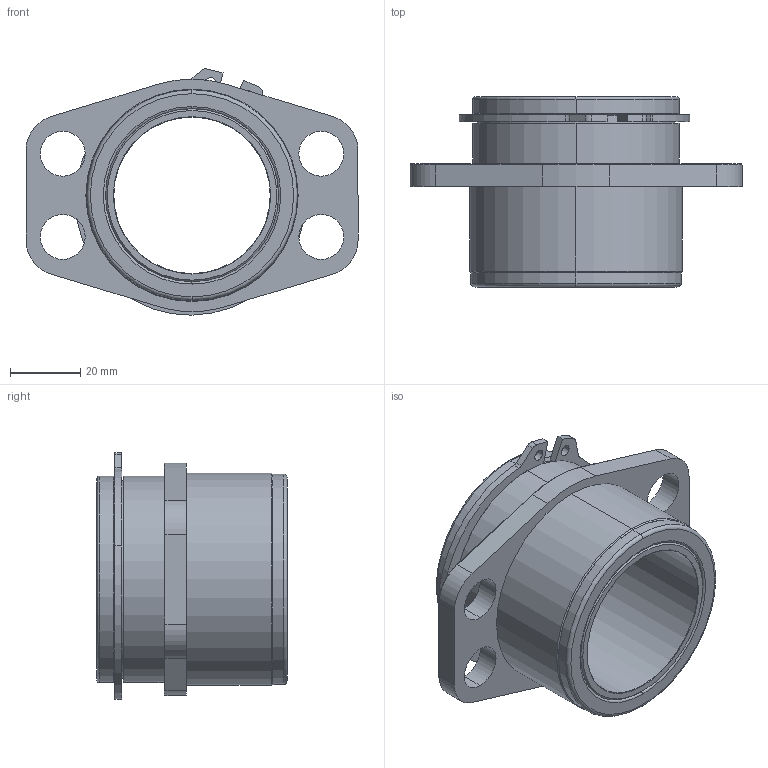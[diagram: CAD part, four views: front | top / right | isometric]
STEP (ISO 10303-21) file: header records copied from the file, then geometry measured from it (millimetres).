
FILE_DESCRIPTION (( 'STEP AP214' ), '1' );
FILE_NAME ('GK175-L2-M-Base.STEP', '2011-05-18T13:34:53', ( '' ), ( '' ), 'SwSTEP 2.0', 'SolidWorks 2010', '' );
FILE_SCHEMA (( 'AUTOMOTIVE_DESIGN' ));
Length unit declared in the file: inch
Products named in the file (4): GK175-L2-M-Base; Base-GK175-L_Base-GK175-L2-M-Cust; Bushing-BU-1.75ID-2.0Long_Bushing-BU-1.75ID-2.0Long; RetainingRing-External-Standard-2.375Shaft_RetainingRing-External-Standard-2.375Shaft
Assembly tree (3 placements, depth 2):
  GK175-L2-M-Base
    Base-GK175-L_Base-GK175-L2-M-Cust
    Bushing-BU-1.75ID-2.0Long_Bushing-BU-1.75ID-2.0Long
    RetainingRing-External-Standard-2.375Shaft_RetainingRing-External-Standard-2.375Shaft
Bounding box: 94.31 x 53.98 x 69.98 mm (x, y, z)
Volume: 78442.7 mm3; surface area: 43505.4 mm2
Topology: 3 solids, 3 shells, 103 faces, 241 edges, 147 vertices
Faces by surface type: cylinder 51, plane 21, torus 17, cone 14
Entity records: 3199 total; most frequent: DIRECTION 599, CARTESIAN_POINT 497, ORIENTED_EDGE 482, AXIS2_PLACEMENT_3D 249, EDGE_CURVE 241, VERTEX_POINT 147, CIRCLE 140, EDGE_LOOP 122
